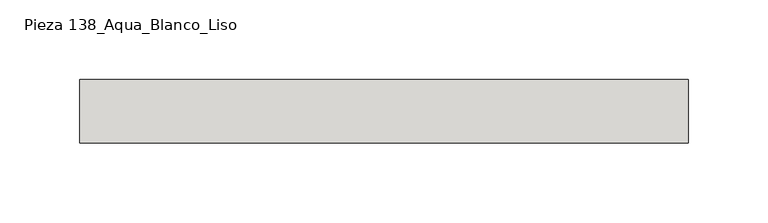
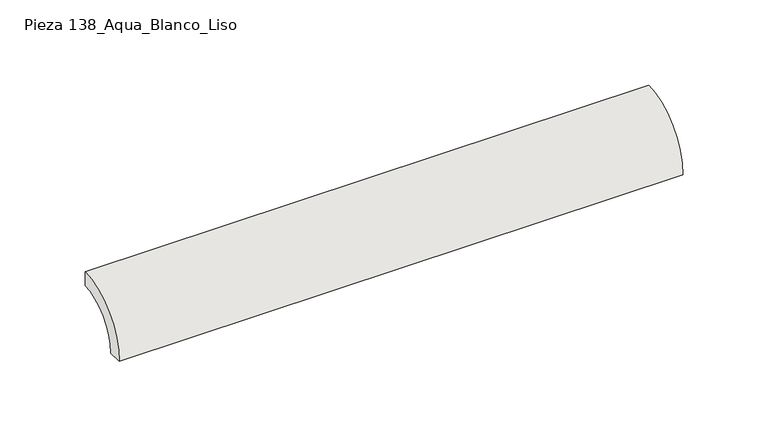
"""IFC4 building model written with IfcOpenShell, lengths in millimetres: slab geometry, ROSA GRES_138 : Pieza 138_Aqua_Blanco_Liso."""

from ifc_helpers import new_model, si_unit, point, frame, frame_2d, origin, origin_2d, place, context, project, spatial, polyline, circle_curve, trimmed, segment, composite_curve, outline, extrude, source, transform, mapped, element, save


def pieza_138_aqua_blanco_liso_520160bc(model_context):
    return source(origin(), model_context, "Body", "SweptSolid", [
        extrude(outline(composite_curve([segment(polyline([(0.0, 40.0), (0.0, 30.0265886)]), True, "CONTINUOUS"), segment(trimmed(circle_curve(frame_2d((-0.0044453, 0.0044453)), 30.0221435), [point((0.0, 30.0265886))], [point((-30.0265886, 0.0))], True, "CARTESIAN"), True, "CONTINUOUS"), segment(polyline([(-30.0265886, 0.0), (-40.0, 0.0)]), True, "CONTINUOUS"), segment(trimmed(circle_curve(origin_2d(), 40.0), [point((-40.0, 0.0))], [point((0.0, 40.0))], False, "CARTESIAN"), True, "CONTINUOUS")], self_intersect=False)), frame((0.0, 0.0, 0.0), z_axis=(1.0, 0.0, 0.0), x_axis=(0.0, 1.0, 0.0)), (0.0, 0.0, 1.0), 381.9434776),
    ])


if __name__ == "__main__":
    model = new_model("IFC4")
    model_context = context("Model", 3, world=origin())
    ifc_project = project(units=[si_unit("LENGTHUNIT", "METRE", prefix="MILLI")], contexts=[model_context])
    site = spatial("IfcSite", under=ifc_project)
    building = spatial("IfcBuilding", under=site)
    placement = place(None, origin())
    pieza_138_aqua_blanco_liso_shape = pieza_138_aqua_blanco_liso_520160bc(model_context)
    element("IfcSlab", 1, ObjectType="ROSA GRES_138 : Pieza 138_Aqua_Blanco_Liso", at=placement, inside=building, context=model_context, shape_type="MappedRepresentation", body=[
        mapped(pieza_138_aqua_blanco_liso_shape, transform((0.0, 0.0, 0.0), x_axis=(1.0, 0.0, 0.0), y_axis=(0.0, 1.0, 0.0), z_axis=(0.0, 0.0, 1.0))),
    ])
    save(model, "model.ifc")
